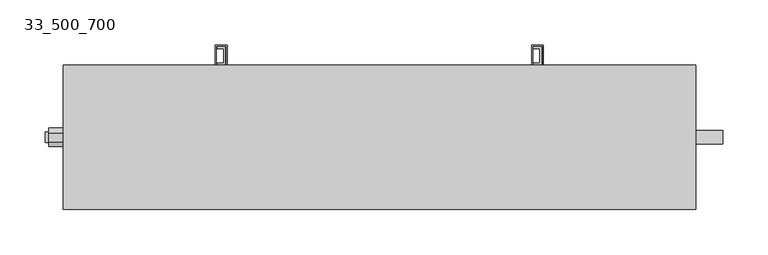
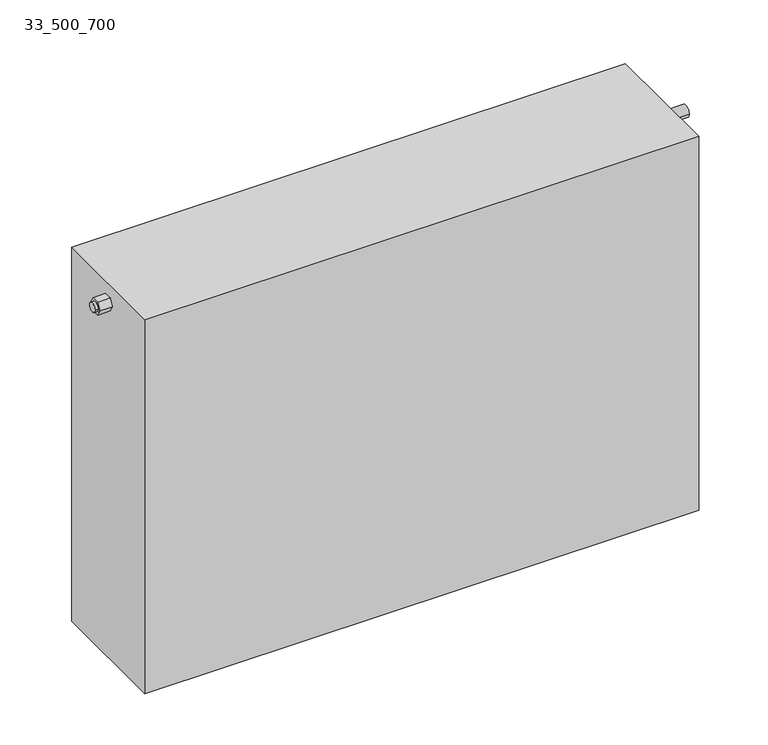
"""IFC4 building model written with IfcOpenShell, lengths in millimetres: proxy geometry, ADSK_Радиатор_СтальнойПанельный : 33_500_700."""

from ifc_helpers import new_model, si_unit, point, frame, frame_2d, origin, place, context, project, spatial, polyline, circle_curve, trimmed, segment, composite_curve, outline, extrude, source, transform, mapped, element, save
from ifc_brep_helpers import plane_surface, cylinder_surface, advanced_brep


def proxy_33_500_700_09fd8b91(model_context):
    return source(origin(), model_context, "Body", "SolidModel", [
        extrude(outline(polyline([(379.542649, -29.589015), (379.542649, -49.589015), (370.411704, -49.589015), (370.411704, -47.609118), (377.490403, -47.609118), (377.490403, -38.8242061), (377.490403, -31.5689121), (370.411704, -31.5689121), (370.411704, -29.589015), (379.542649, -29.589015)])), frame((0.0, 0.0, 175.0), z_axis=(0.0, 0.0, 1.0), x_axis=(1.0, 0.0, 0.0)), (0.0, 0.0, 1.0), 350.0),
        extrude(outline(polyline([(381.3350832, -27.7938187), (381.3350832, -73.0037765), (368.3943158, -73.0037765), (368.3943158, -27.7938187), (381.3350832, -27.7938187)]), holes=[polyline([(379.9194272, -29.2790933), (370.0216716, -29.2790933), (370.0216716, -50.0), (379.9194272, -50.0), (379.9194272, -29.2790933)])]), frame((0.0, 0.0, 490.0061306), z_axis=(0.0, 0.0, 1.0), x_axis=(1.0, 0.0, 0.0)), (0.0, 0.0, 1.0), 9.9938694),
        extrude(outline(polyline([(381.3350832, -27.7938187), (381.3350832, -73.0037765), (368.3943158, -73.0037765), (368.3943158, -27.7938187), (381.3350832, -27.7938187)]), holes=[polyline([(379.9194272, -29.2790933), (370.0216716, -29.2790933), (370.0216716, -50.0), (379.9194272, -50.0), (379.9194272, -29.2790933)])]), frame((0.0, 0.0, 200.0), z_axis=(0.0, 0.0, 1.0), x_axis=(1.0, 0.0, 0.0)), (0.0, 0.0, 1.0), 9.9938694),
        extrude(outline(polyline([(29.542649, -29.589015), (29.542649, -49.589015), (20.411704, -49.589015), (20.411704, -47.609118), (27.490403, -47.609118), (27.490403, -38.8242061), (27.490403, -31.5689121), (20.411704, -31.5689121), (20.411704, -29.589015), (29.542649, -29.589015)])), frame((0.0, 0.0, 175.0), z_axis=(0.0, 0.0, 1.0), x_axis=(1.0, 0.0, 0.0)), (0.0, 0.0, 1.0), 350.0),
        extrude(outline(polyline([(31.3350832, -27.7938187), (31.3350832, -73.0037765), (18.3943158, -73.0037765), (18.3943158, -27.7938187), (31.3350832, -27.7938187)]), holes=[polyline([(29.9194272, -29.2790933), (20.0216716, -29.2790933), (20.0216716, -50.0), (29.9194272, -50.0), (29.9194272, -29.2790933)])]), frame((0.0, 0.0, 490.0061306), z_axis=(0.0, 0.0, 1.0), x_axis=(1.0, 0.0, 0.0)), (0.0, 0.0, 1.0), 9.9938694),
        extrude(outline(polyline([(31.3350832, -27.7938187), (31.3350832, -73.0037765), (18.3943158, -73.0037765), (18.3943158, -27.7938187), (31.3350832, -27.7938187)]), holes=[polyline([(29.9194272, -29.2790933), (20.0216716, -29.2790933), (20.0216716, -50.0), (29.9194272, -50.0), (29.9194272, -29.2790933)])]), frame((0.0, 0.0, 200.0), z_axis=(0.0, 0.0, 1.0), x_axis=(1.0, 0.0, 0.0)), (0.0, 0.0, 1.0), 9.9938694),
        extrude(outline(composite_curve([segment(trimmed(circle_curve(frame_2d((-130.0, 125.0)), 7.5), [point((-137.5, 125.0))], [point((-122.5, 125.0))], False, "CARTESIAN"), True, "CONTINUOUS"), segment(trimmed(circle_curve(frame_2d((-130.0, 125.0)), 7.5), [point((-122.5, 125.0))], [point((-137.5, 125.0))], False, "CARTESIAN"), True, "CONTINUOUS")], self_intersect=False)), frame((550.0, 0.0, 0.0), z_axis=(1.0, 0.0, 0.0), x_axis=(0.0, 1.0, 0.0)), (0.0, 0.0, 1.0), 30.0),
        extrude(outline(composite_curve([segment(trimmed(circle_curve(frame_2d((-130.0, 575.0)), 7.5), [point((-137.5, 575.0))], [point((-122.5, 575.0))], False, "CARTESIAN"), True, "CONTINUOUS"), segment(trimmed(circle_curve(frame_2d((-130.0, 575.0)), 7.5), [point((-122.5, 575.0))], [point((-137.5, 575.0))], False, "CARTESIAN"), True, "CONTINUOUS")], self_intersect=False)), frame((550.0, 0.0, 0.0), z_axis=(1.0, 0.0, 0.0), x_axis=(0.0, 1.0, 0.0)), (0.0, 0.0, 1.0), 30.0),
        extrude(outline(polyline([(550.0, -50.0), (550.0, -210.0), (-150.0, -210.0), (-150.0, -50.0), (550.0, -50.0)])), frame((0.0, 0.0, 100.0), z_axis=(0.0, 0.0, 1.0), x_axis=(1.0, 0.0, 0.0)), (0.0, 0.0, 1.0), 500.0),
        advanced_brep(
        [(-170.0, -136.0, 575.0), (-170.0, -124.0, 575.0), (-166.1885654, -124.0, 575.0), (-166.1885654, -136.0, 575.0), (-166.1885654, -135.0, 566.339746), (-166.1885654, -140.0, 575.0), (-166.1885654, -135.0, 583.660254), (-166.1885654, -125.0, 583.660254), (-166.1885654, -120.0, 575.0), (-166.1885654, -125.0, 566.339746), (-150.0, -135.0, 566.339746), (-150.0, -125.0, 566.339746), (-150.0, -120.0, 575.0), (-150.0, -125.0, 583.660254), (-150.0, -135.0, 583.660254), (-150.0, -140.0, 575.0)],
        [
            (0, 1, circle_curve(frame((-170.0, -130.0, 575.0), z_axis=(-1.0, 0.0, 0.0), x_axis=(0.0, 1.0, 0.0)), 6.0)),
            (1, 0, circle_curve(frame((-170.0, -130.0, 575.0), z_axis=(-1.0, 0.0, 0.0), x_axis=(0.0, 1.0, 0.0)), 6.0)),
            (1, 2),
            (2, 3, circle_curve(frame((-166.1885654, -130.0, 575.0), z_axis=(-1.0, 0.0, 0.0), x_axis=(0.0, 1.0, 0.0)), 6.0)),
            (3, 0),
            (3, 2, circle_curve(frame((-166.1885654, -130.0, 575.0), z_axis=(-1.0, 0.0, 0.0), x_axis=(0.0, 1.0, 0.0)), 6.0)),
            (4, 5),
            (5, 6),
            (6, 7),
            (7, 8),
            (8, 9),
            (9, 4),
            (10, 11),
            (11, 12),
            (12, 13),
            (13, 14),
            (14, 15),
            (15, 10),
            (9, 11),
            (10, 4),
            (8, 12),
            (7, 13),
            (6, 14),
            (5, 15),
        ],
        [
            plane_surface(frame((-170.0, -124.0, 575.0), z_axis=(-1.0, 0.0, 0.0), x_axis=(0.0, 0.0, -1.0))),
            cylinder_surface(frame((-170.0, -130.0, 575.0), z_axis=(1.0, 0.0, 0.0), x_axis=(0.0, 1.0, 0.0)), 6.0),
            plane_surface(frame((-166.1885654, -135.0, 566.339746), z_axis=(-1.0, 0.0, 0.0), x_axis=(0.0, -1.0, 0.0))),
            plane_surface(frame((-150.0, -135.0, 566.339746), z_axis=(1.0, 0.0, 0.0), x_axis=(0.0, 1.0, 0.0))),
            plane_surface(frame((-150.0, -135.0, 566.339746), z_axis=(0.0, 0.0, -1.0), x_axis=(-1.0, 0.0, 0.0))),
            plane_surface(frame((-150.0, -125.0, 566.339746), z_axis=(0.0, 0.8660254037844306, -0.500000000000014), x_axis=(-1.0, 0.0, 0.0))),
            plane_surface(frame((-150.0, -120.0, 575.0), z_axis=(0.0, 0.8660254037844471, 0.49999999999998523), x_axis=(-1.0, 0.0, 0.0))),
            plane_surface(frame((-150.0, -125.0, 583.660254), z_axis=(0.0, 0.0, 1.0), x_axis=(-1.0, 0.0, 0.0))),
            plane_surface(frame((-150.0, -135.0, 583.660254), z_axis=(0.0, -0.8660254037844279, 0.5000000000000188), x_axis=(-1.0, 0.0, 0.0))),
            plane_surface(frame((-150.0, -140.0, 575.0), z_axis=(0.0, -0.8660254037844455, -0.49999999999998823), x_axis=(-1.0, 0.0, 0.0))),
        ],
        [
            (0, [[1, 2]]),
            (1, [[-2, 3, 4, 5]]),
            (1, [[-1, -5, 6, -3]]),
            (2, [[7, 8, 9, 10, 11, 12], [-4, -6]]),
            (3, [[13, 14, 15, 16, 17, 18]]),
            (4, [[-12, 19, -13, 20]]),
            (5, [[-11, 21, -14, -19]]),
            (6, [[-10, 22, -15, -21]]),
            (7, [[-9, 23, -16, -22]]),
            (8, [[-8, 24, -17, -23]]),
            (9, [[-7, -20, -18, -24]]),
        ],
    ),
    ])


if __name__ == "__main__":
    model = new_model("IFC4")
    model_context = context("Model", 3, world=origin())
    ifc_project = project(units=[si_unit("LENGTHUNIT", "METRE", prefix="MILLI")], contexts=[model_context])
    site = spatial("IfcSite", under=ifc_project)
    building = spatial("IfcBuilding", under=site)
    placement = place(None, origin())
    proxy_33_500_700_shape = proxy_33_500_700_09fd8b91(model_context)
    element("IfcBuildingElementProxy", 1, Name="ADSK_Радиатор_СтальнойПанельный : 33_500_700", ObjectType="ADSK_Радиатор_СтальнойПанельный : 33_500_700", at=placement, inside=building, context=model_context, shape_type="MappedRepresentation", body=[
        mapped(proxy_33_500_700_shape, transform((0.0, 0.0, 0.0), x_axis=(1.0, 0.0, 0.0), y_axis=(0.0, 1.0, 0.0), z_axis=(0.0, 0.0, 1.0))),
    ])
    save(model, "model.ifc")
